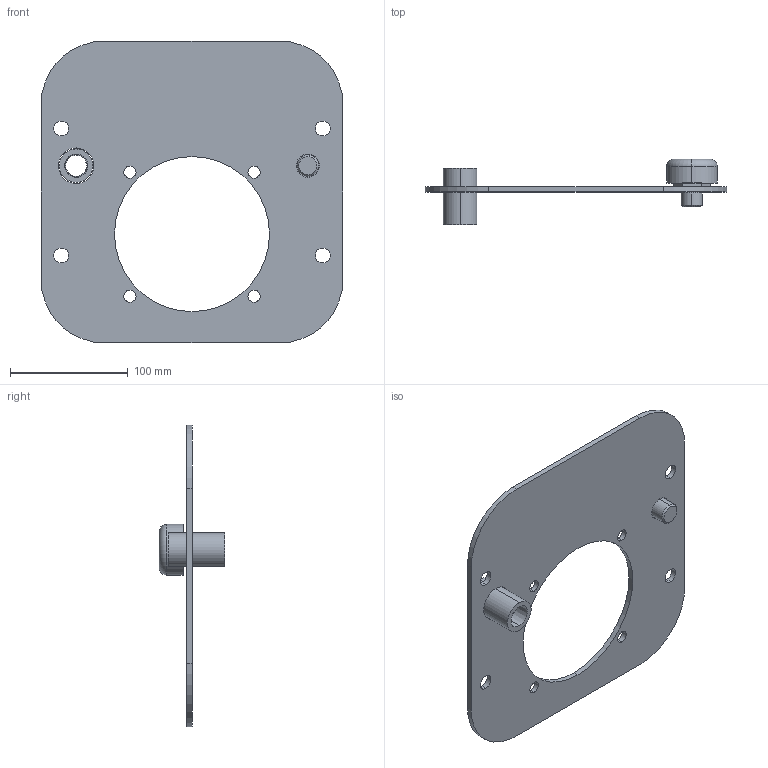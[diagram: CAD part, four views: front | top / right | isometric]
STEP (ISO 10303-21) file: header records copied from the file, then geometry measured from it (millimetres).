
FILE_DESCRIPTION (( 'STEP AP203' ), '1' );
FILE_NAME ('RVPT-4.STEP', '2015-01-08T15:19:19', ( '' ), ( '' ), 'SwSTEP 2.0', 'SolidWorks 2014', '' );
FILE_SCHEMA (( 'CONFIG_CONTROL_DESIGN' ));
Length unit declared in the file: inch
Products named in the file (1): RVPT-4
Bounding box: 256.79 x 55.88 x 256.79 mm (x, y, z)
Volume: 270922.4 mm3; surface area: 118410.8 mm2
Topology: 3 solids, 3 shells, 62 faces, 152 edges, 100 vertices
Faces by surface type: cylinder 32, plane 20, cone 8, torus 2
Entity records: 1989 total; most frequent: DIRECTION 360, CARTESIAN_POINT 315, ORIENTED_EDGE 304, EDGE_CURVE 152, AXIS2_PLACEMENT_3D 145, VERTEX_POINT 100, EDGE_LOOP 90, CIRCLE 82
